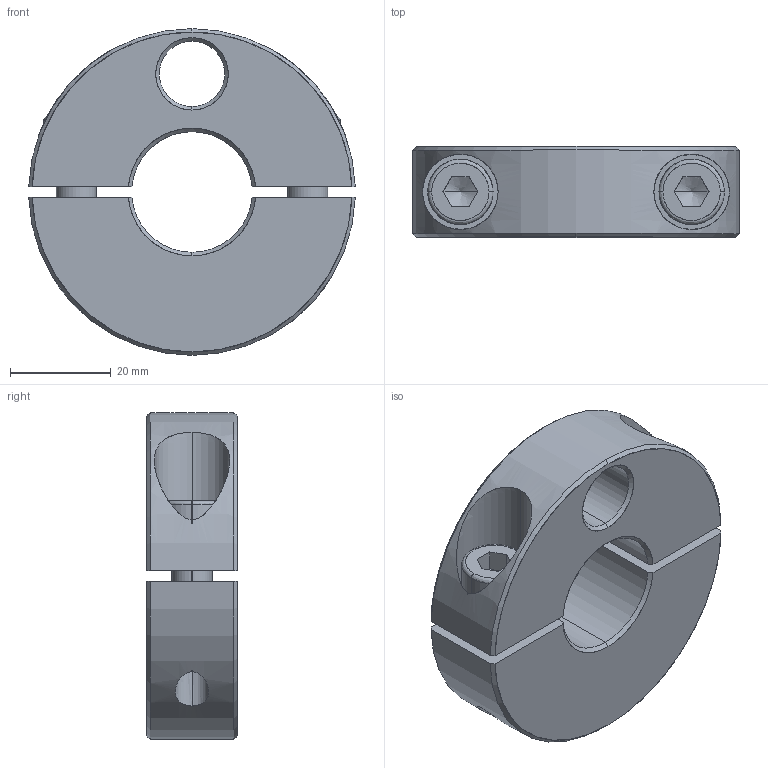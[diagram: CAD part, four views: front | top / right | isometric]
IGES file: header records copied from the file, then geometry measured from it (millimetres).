
Start section: SolidWorks IGES FILE using analytic representation for surfaces
Global section: file name: C:\WIX2\Positioning\3865\3865W124.igs; native system: SolidWorks 2003 by SolidWorks Corporation; preprocessor: Version 5.3; author: Joan; date: 030722.173008; units: millimetre
Bounding box: 64.97 x 18 x 65 mm (x, y, z)
Surface area: 16773.2 mm2 (no closed solid volume)
Topology: 0 solids, 0 shells, 99 faces, 1675 edges, 1671 vertices
Faces by surface type: revolution 65, bspline 34
